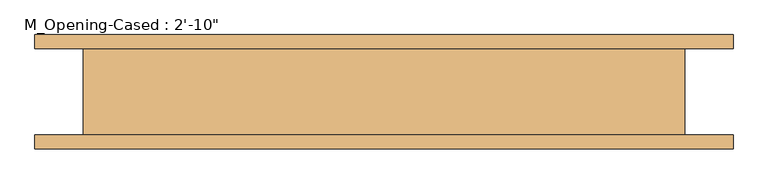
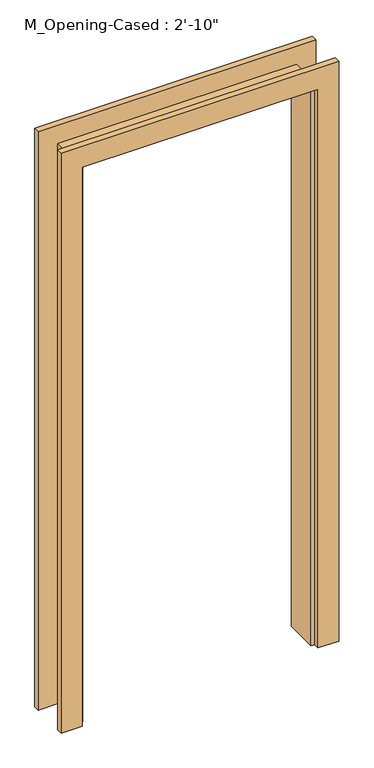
"""IFC4 building model written with IfcOpenShell, lengths in millimetres: door geometry."""

from ifc_helpers import new_model, si_unit, frame, origin, place, context, project, spatial, polyline, outline, extrude, faceted_brep, source, transform, mapped, element, save


def door_670c294a(model_context):
    return source(origin(), model_context, "Body", "SolidModel", [
        extrude(outline(polyline([(0.0, -433.6386567), (2127.25, -433.6386567), (2127.25, 417.2613433), (0.0, 417.2613433), (0.0, 492.2613433), (2202.25, 492.2613433), (2202.25, -508.6386567), (0.0, -508.6386567), (0.0, -433.6386567)])), frame((0.0, 61.9125, 0.0), z_axis=(0.0, 1.0, 0.0), x_axis=(0.0, 0.0, 1.0)), (0.0, 0.0, 1.0), 20.0),
        extrude(outline(polyline([(0.0, 492.2613433), (2207.65, 492.2613433), (2207.65, -508.6386567), (0.0, -508.6386567), (0.0, -433.6386567), (2127.25, -433.6386567), (2127.25, 417.2613433), (0.0, 417.2613433), (0.0, 492.2613433)])), frame((0.0, -81.9125, 0.0), z_axis=(0.0, 1.0, 0.0), x_axis=(0.0, 0.0, 1.0)), (0.0, 0.0, 1.0), 20.0),
        faceted_brep([(403.6113433, -61.9125, 0.0), (403.6113433, 61.9125, 0.0), (422.6613433, 61.9125, 0.0), (422.6613433, -61.9125, 0.0), (422.6613433, -61.9125, 2132.65), (403.6113433, -61.9125, 2113.6), (422.6613433, 61.9125, 2132.65), (403.6113433, 61.9125, 2113.6), (-419.9886567, -61.9125, 0.0), (-439.0386567, -61.9125, 0.0), (-439.0386567, 61.9125, 0.0), (-419.9886567, 61.9125, 0.0), (-419.9886567, -61.9125, 2113.6), (-419.9886567, 61.9125, 2113.6), (-439.0386567, 61.9125, 2132.65), (-439.0386567, -61.9125, 2132.65)], [[[0, 1, 2, 3]], [[3, 4, 5, 0]], [[2, 6, 4, 3]], [[1, 7, 6, 2]], [[0, 5, 7, 1]], [[8, 9, 10, 11]], [[12, 8, 11, 13]], [[13, 11, 10, 14]], [[14, 10, 9, 15]], [[15, 9, 8, 12]], [[4, 15, 12, 5]], [[6, 14, 15, 4]], [[7, 13, 14, 6]], [[5, 12, 13, 7]]]),
    ])


if __name__ == "__main__":
    model = new_model("IFC4")
    model_context = context("Model", 3, world=origin())
    ifc_project = project(units=[si_unit("LENGTHUNIT", "METRE", prefix="MILLI")], contexts=[model_context])
    site = spatial("IfcSite", under=ifc_project)
    building = spatial("IfcBuilding", under=site)
    placement = place(None, origin())
    door_shape = door_670c294a(model_context)
    element("IfcDoor", 1, ObjectType="M_Opening-Cased : 2'-10\"", at=placement, inside=building, context=model_context, shape_type="MappedRepresentation", body=[
        mapped(door_shape, transform((0.0, 0.0, 0.0), x_axis=(1.0, 0.0, 0.0), y_axis=(0.0, 1.0, 0.0), z_axis=(0.0, 0.0, 1.0))),
    ])
    save(model, "model.ifc")
